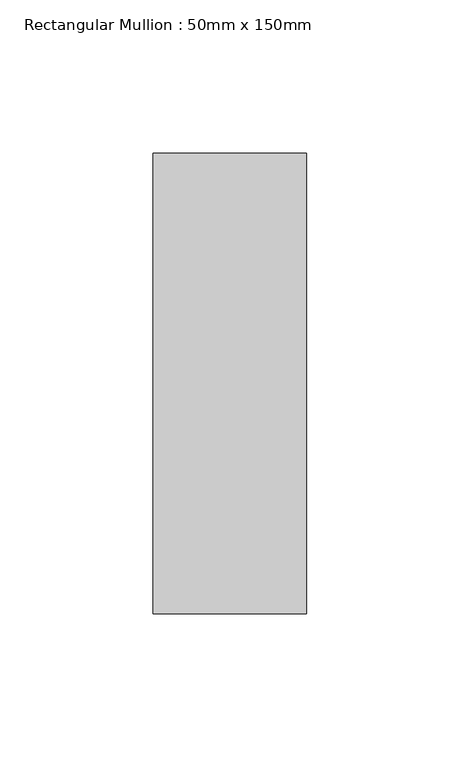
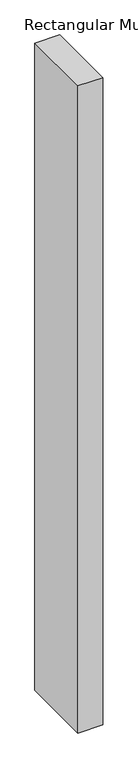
"""IFC4 building model written with IfcOpenShell, lengths in millimetres: member geometry, Rectangular Mullion : 50mm x 150mm."""

from ifc_helpers import new_model, si_unit, frame, origin, place, context, project, spatial, polyline, outline, extrude, source, transform, mapped, element, save


def rectangular_mullion_50mm_x_150mm_73e7bd4c(model_context):
    return source(origin(), model_context, "Body", "SweptSolid", [
        extrude(outline(polyline([(25.0, 75.0), (25.0, -75.0), (-25.0, -75.0), (-25.0, 75.0), (25.0, 75.0)])), frame((0.0, 0.0, -1376.0284883), z_axis=(0.0, 0.0, 1.0), x_axis=(1.0, 0.0, 0.0)), (0.0, 0.0, 1.0), 1376.0284883),
    ])


if __name__ == "__main__":
    model = new_model("IFC4")
    model_context = context("Model", 3, world=origin())
    ifc_project = project(units=[si_unit("LENGTHUNIT", "METRE", prefix="MILLI")], contexts=[model_context])
    site = spatial("IfcSite", under=ifc_project)
    building = spatial("IfcBuilding", under=site)
    placement = place(None, origin())
    rectangular_mullion_50mm_x_150mm_shape = rectangular_mullion_50mm_x_150mm_73e7bd4c(model_context)
    element("IfcMember", 1, ObjectType="Rectangular Mullion : 50mm x 150mm", at=placement, inside=building, context=model_context, shape_type="MappedRepresentation", body=[
        mapped(rectangular_mullion_50mm_x_150mm_shape, transform((0.0, 0.0, 0.0), x_axis=(1.0, 0.0, 0.0), y_axis=(0.0, 1.0, 0.0), z_axis=(0.0, 0.0, 1.0))),
    ])
    save(model, "model.ifc")
